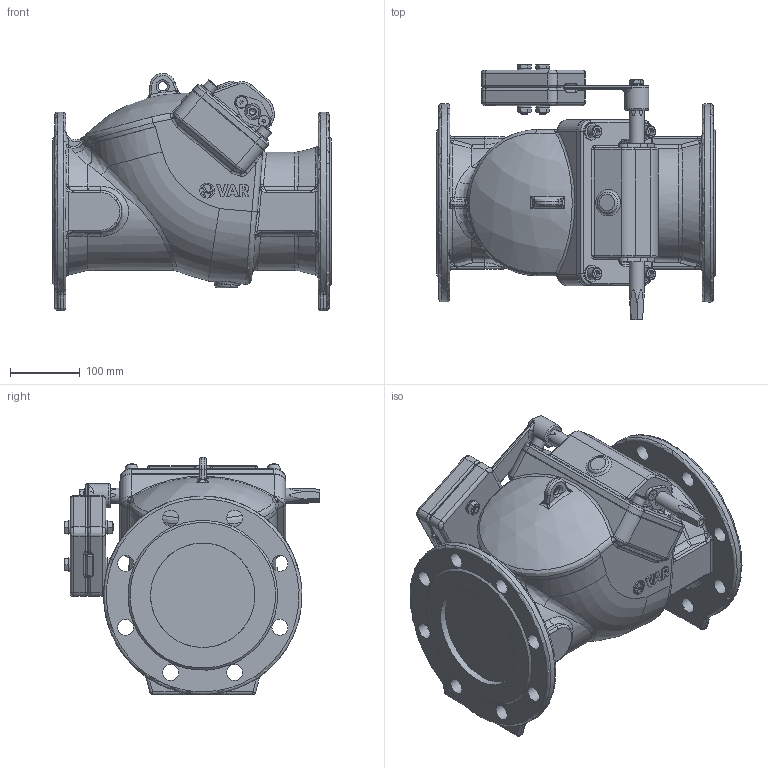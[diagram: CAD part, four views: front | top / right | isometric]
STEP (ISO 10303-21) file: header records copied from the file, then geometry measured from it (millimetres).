
FILE_DESCRIPTION(('STEP AP203'), '1');
FILE_NAME('VAR LIMU-STOP Îáðàòíûé êëàïàí DN 150 PN 16 c ðû÷àãîì è ïðîòèâîâåñîì', '2026-06-28T08:29:18', (' '), (' '), 'C3D Converter', 'C3D Toolkit', '');
FILE_SCHEMA(('CONFIG_CONTROL_DESIGN'));
Length unit declared in the file: millimetre
Products named in the file (1): Admi0C102497dljl
Bounding box: 400 x 366.9 x 340.49 mm (x, y, z)
Volume: 16870957.6 mm3; surface area: 667506.2 mm2
Topology: 1 solids, 11 shells, 1133 faces, 2885 edges, 1779 vertices
Faces by surface type: plane 390, cylinder 262, bspline 157, extrusion 138, torus 107, cone 54, sphere 25
Full cylindrical faces by diameter (mm): 8 x4, 8.5 x6, 10 x11, 10.5 x5, 12 x4, 13 x5, 15.6 x3, 16 x4, 18 x4, 20 x5, 21.272 x1, 22 x2, 23 x18, 24 x4, 35 x1, 150 x2
Entity records: 70464 total; most frequent: CARTESIAN_POINT 37524, ORIENTED_EDGE 5370, DIRECTION 4296, EDGE_CURVE 2685, VERTEX_POINT 1757, AXIS2_PLACEMENT_3D 1576, EDGE_LOOP 1374, FACE_BOUND 1316
